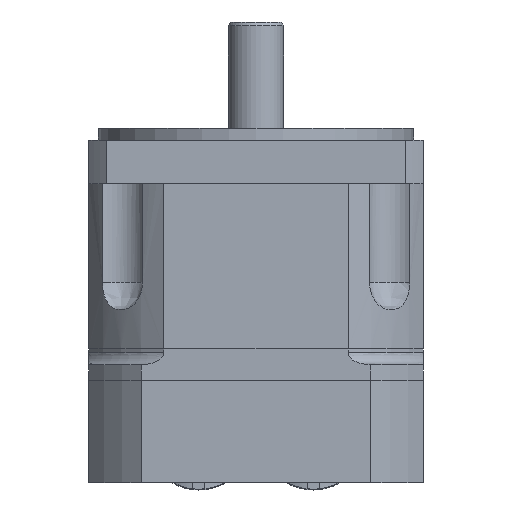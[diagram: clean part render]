
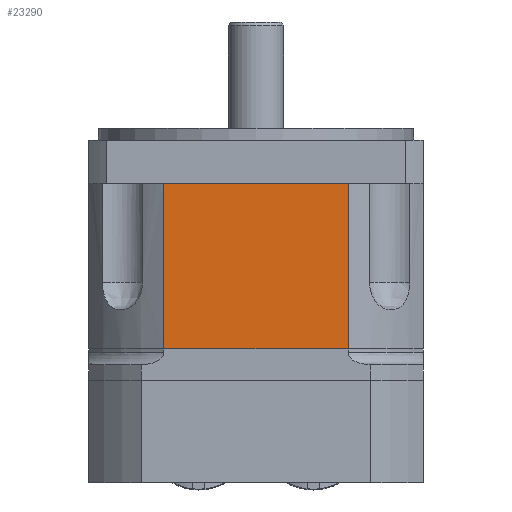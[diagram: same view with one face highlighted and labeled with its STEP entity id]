
A CAD part, front view. The second image highlights one B-rep face of the part: STEP entity #23290.
In plain terms, the highlighted planar face has unit normal (0, -1, 0).
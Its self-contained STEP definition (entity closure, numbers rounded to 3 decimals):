
#2590=PLANE('',#24875);
#3131=LINE('',#33670,#4226);
#3141=LINE('',#34044,#4236);
#3144=LINE('',#34053,#4239);
#3150=LINE('',#34165,#4245);
#4226=VECTOR('',#27518,46.733);
#4236=VECTOR('',#27620,42.);
#4239=VECTOR('',#27629,42.);
#4245=VECTOR('',#27647,46.733);
#5809=FACE_OUTER_BOUND('',#7283,.T.);
#7283=EDGE_LOOP('',(#16943,#16944,#16945,#16946));
#11042=VERTEX_POINT('',#33667);
#11043=VERTEX_POINT('',#33669);
#11079=VERTEX_POINT('',#34043);
#11082=VERTEX_POINT('',#34051);
#13425=EDGE_CURVE('',#11042,#11043,#3131,.T.);
#13469=EDGE_CURVE('',#11043,#11079,#3141,.T.);
#13474=EDGE_CURVE('',#11042,#11082,#3144,.T.);
#13485=EDGE_CURVE('',#11079,#11082,#3150,.T.);
#16943=ORIENTED_EDGE('',*,*,#13425,.F.);
#16944=ORIENTED_EDGE('',*,*,#13474,.T.);
#16945=ORIENTED_EDGE('',*,*,#13485,.F.);
#16946=ORIENTED_EDGE('',*,*,#13469,.F.);
#23290=ADVANCED_FACE('',(#5809),#2590,.T.);
#24875=AXIS2_PLACEMENT_3D('',#34164,#27645,#27646);
#27518=DIRECTION('',(1.,0.,0.));
#27620=DIRECTION('',(0.,0.,-1.));
#27629=DIRECTION('',(0.,0.,-1.));
#27645=DIRECTION('center_axis',(0.,-1.,0.));
#27646=DIRECTION('ref_axis',(-1.,0.,0.));
#27647=DIRECTION('',(-1.,0.,0.));
#33667=CARTESIAN_POINT('',(-23.367,-42.5,0.));
#33669=CARTESIAN_POINT('',(23.367,-42.5,0.));
#33670=CARTESIAN_POINT('',(-23.367,-42.5,0.));
#34043=CARTESIAN_POINT('',(23.367,-42.5,-42.));
#34044=CARTESIAN_POINT('',(23.367,-42.5,0.));
#34051=CARTESIAN_POINT('',(-23.367,-42.5,-42.));
#34053=CARTESIAN_POINT('',(-23.367,-42.5,0.));
#34164=CARTESIAN_POINT('Origin',(23.367,-42.5,0.));
#34165=CARTESIAN_POINT('',(-23.367,-42.5,-42.));
